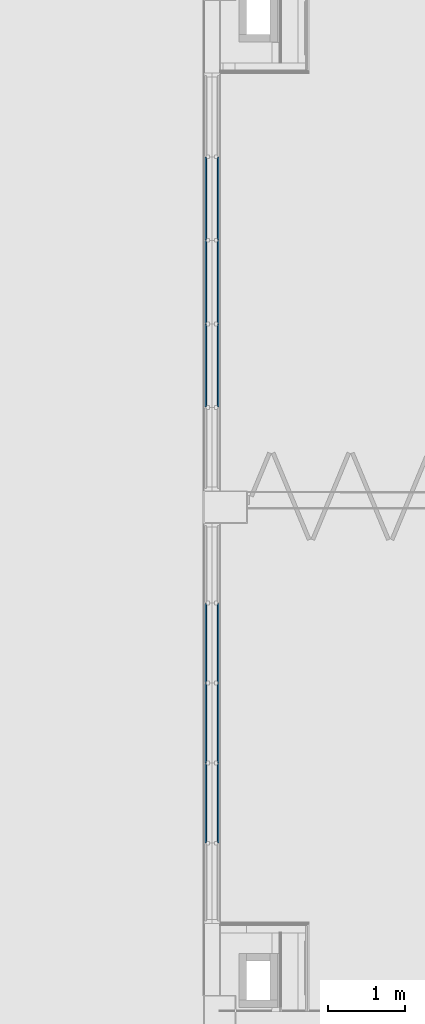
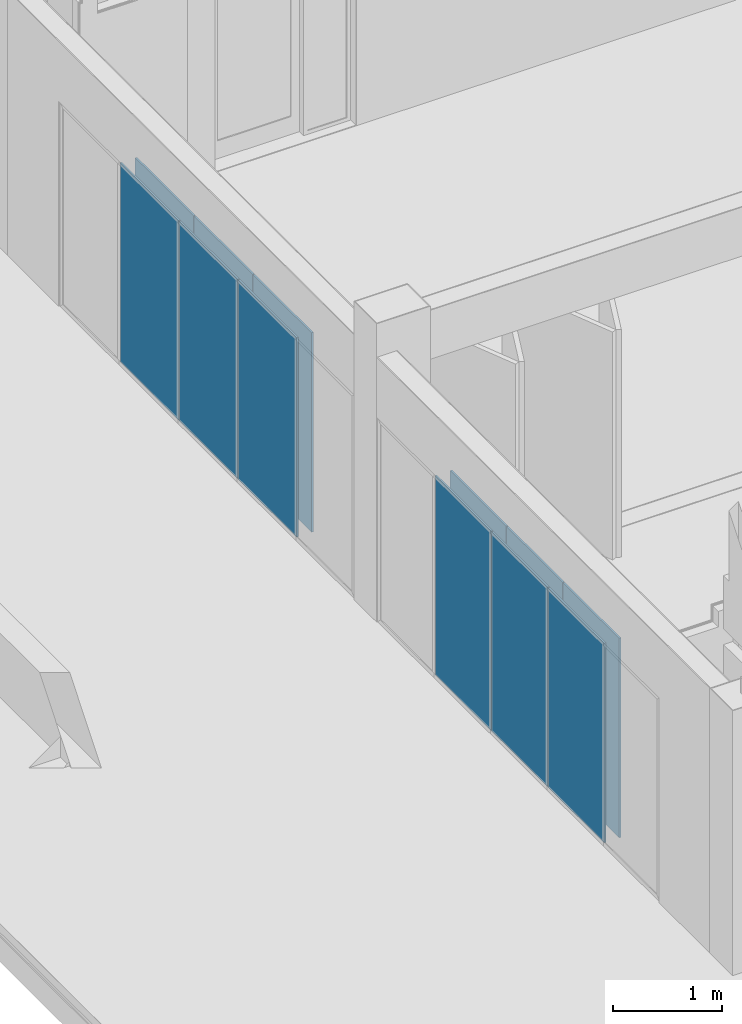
# One storey, part 17 of 139: 12 plates, 4 elements without a shape of their own.
"""IFC2X3 building model written with IfcOpenShell, lengths in millimetres."""

from ifc_helpers import new_model, entity, si_unit, converted_unit, derived_unit, money_unit, direction, frame, origin_with_axes, place, context, subcontext, project, spatial, faceted_brep, source, transform, mapped, material, type_object, element, aggregate, save


model = new_model("IFC2X3")

# Units and contexts
model_context = context("Model", 3, precision=0.01, world=origin_with_axes(), true_north=direction((0.0, 1.0)))
body_context = subcontext(model_context, "Body", "Model", "MODEL_VIEW")
ifc_project = project(units=[si_unit("LENGTHUNIT", "METRE", prefix="MILLI"), si_unit("AREAUNIT", "SQUARE_METRE"), si_unit("VOLUMEUNIT", "CUBIC_METRE"), converted_unit("PLANEANGLEUNIT", "DEGREE", entity("IfcPlaneAngleMeasure", 0.0174532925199), si_unit("PLANEANGLEUNIT", "RADIAN"), dimensions=[0, 0, 0, 0, 0, 0, 0]), money_unit("EUR"), converted_unit("TIMEUNIT", "Year", entity("IfcTimeMeasure", 31556926.0), si_unit("TIMEUNIT", "SECOND"), dimensions=[0, 0, 1, 0, 0, 0, 0]), si_unit("MASSUNIT", "GRAM", prefix="KILO"), si_unit("THERMODYNAMICTEMPERATUREUNIT", "DEGREE_CELSIUS"), si_unit("LUMINOUSINTENSITYUNIT", "LUMEN"), si_unit("ENERGYUNIT", "JOULE", prefix="MEGA"), derived_unit("THERMALCONDUCTANCEUNIT", [(si_unit("POWERUNIT", "WATT"), 1), (si_unit("LENGTHUNIT", "METRE"), -1), (si_unit("THERMODYNAMICTEMPERATUREUNIT", "KELVIN"), -1)]), derived_unit("SPECIFICHEATCAPACITYUNIT", [(si_unit("ENERGYUNIT", "JOULE"), 1), (si_unit("MASSUNIT", "GRAM", prefix="KILO"), -1), (si_unit("THERMODYNAMICTEMPERATUREUNIT", "KELVIN"), -1)]), derived_unit("MASSDENSITYUNIT", [(si_unit("MASSUNIT", "GRAM", prefix="KILO"), 1), (si_unit("VOLUMEUNIT", "CUBIC_METRE"), -1)])], contexts=[model_context])

# Site, building, storey
site_placement = place(None, origin_with_axes())
site = spatial("IfcSite", under=ifc_project, at=site_placement, Name="Kolde pst 67a", CompositionType="ELEMENT")
building_placement = place(site_placement, origin_with_axes())
building = spatial("IfcBuilding", under=site, at=building_placement, Name="Riigigümnaasium", CompositionType="ELEMENT")
storey_placement = place(building_placement, frame((0.0, 0.0, 4600.0), z_axis=(0.0, 0.0, 1.0), x_axis=(1.0, 0.0, 0.0)))
storey = spatial("IfcBuildingStorey", under=building, at=storey_placement, Name="2. korrus", CompositionType="ELEMENT", Elevation=4600.0)

# Curtain wall, plates
curtain_wall_type = type_object("IfcCurtainWallType", Name="Curtain Wall Type", PredefinedType="NOTDEFINED")
curtain_wall_1_placement = place(storey_placement, frame((58149.9590802, 13604.9614037, -2.92339397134e-05), z_axis=(0.0, 0.0, 1.0), x_axis=(1.0, 0.0, 0.0)))
curtain_wall_1 = element("IfcCurtainWall", 1, at=curtain_wall_1_placement, inside=storey, type_object=curtain_wall_type, Name="KLAASSEIN")
ifc_material = material(Name="_GENEERILINE MATERJAL KLAAS")
plate_type_1 = type_object("IfcPlateType", Name="Distinct Panel 1030 x 2240 x 20", PredefinedType="NOTDEFINED")
shared_shape_1 = source(origin_with_axes(), body_context, "Body", "Brep", [
    faceted_brep([(-1034.99998596, 2270.00005033, -10.0), (-1034.99998596, 2270.00005033, 10.0), (-5.00001052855, 2270.00005033, 10.0), (-5.00001052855, 2270.00005033, -10.0), (-1034.99998596, 29.9999946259, -10.0), (-1034.99998596, 29.9999946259, 10.0), (-5.00001052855, 29.9999946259, 10.0), (-5.00001052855, 29.9999946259, -10.0)], [[[0, 1, 2, 3]], [[4, 5, 1, 0]], [[1, 5, 6, 2]], [[3, 2, 6, 7]], [[0, 3, 7, 4]], [[7, 6, 5, 4]]]),
])
plate_1_placement = place(curtain_wall_1_placement, frame((0.0, 0.0, 1150.00002248), z_axis=(0.0, 0.0, 1.0), x_axis=(2.82152227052e-06, -0.999999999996, 0.0)))
plate_1 = element("IfcPlate", 2, at=plate_1_placement, type_object=plate_type_1, material=ifc_material, Name="Siseuks", context=body_context, shape_type="MappedRepresentation", body=[
    mapped(shared_shape_1, transform((520.0, 0.0, -1150.00002248), x_axis=(1.0, 0.0, 0.0), y_axis=(0.0, 0.0, 1.0), z_axis=(0.0, -1.0, 0.0))),
])
plate_2_placement = place(curtain_wall_1_placement, frame((-0.00293438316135, 1040.0, 1150.00002248), z_axis=(0.0, 0.0, 1.0), x_axis=(2.82152227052e-06, -0.999999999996, 0.0)))
plate_2 = element("IfcPlate", 3, at=plate_2_placement, type_object=plate_type_1, material=ifc_material, Name="RF PANEEL ERI-018", context=body_context, shape_type="MappedRepresentation", body=[
    mapped(shared_shape_1, transform((520.0, 0.0, -1150.00002248), x_axis=(1.0, 0.0, 0.0), y_axis=(0.0, 0.0, 1.0), z_axis=(0.0, -1.0, 0.0))),
])
plate_3_placement = place(curtain_wall_1_placement, frame((-0.00586876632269, 2079.99999999, 1150.00002248), z_axis=(0.0, 0.0, 1.0), x_axis=(2.82152227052e-06, -0.999999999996, 0.0)))
plate_3 = element("IfcPlate", 4, at=plate_3_placement, type_object=plate_type_1, material=ifc_material, Name="RF PANEEL ERI-019", context=body_context, shape_type="MappedRepresentation", body=[
    mapped(shared_shape_1, transform((520.0, 0.0, -1150.00002248), x_axis=(1.0, 0.0, 0.0), y_axis=(0.0, 0.0, 1.0), z_axis=(0.0, -1.0, 0.0))),
])
aggregate(curtain_wall_1, [plate_1, plate_2, plate_3])

curtain_wall_2_placement = place(storey_placement, frame((58149.948335, 21457.4999721, -5.87247752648e-05), z_axis=(0.0, 0.0, 1.0), x_axis=(1.0, 0.0, 0.0)))
curtain_wall_2 = element("IfcCurtainWall", 5, at=curtain_wall_2_placement, inside=storey, type_object=curtain_wall_type, Name="KLAASSEIN")
plate_type_2 = type_object("IfcPlateType", Name="Distinct Panel 1075 x 2240 x 20", PredefinedType="NOTDEFINED")
shared_shape_2 = source(origin_with_axes(), body_context, "Body", "Brep", [
    faceted_brep([(1079.99999137, 2270.00015068, -10.0), (5.00001074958, 2270.00015068, -10.0), (5.00001074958, 2270.00015068, 10.0), (1079.99999137, 2270.00015068, 10.0), (1079.99999137, 29.9999959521, -10.0), (5.00001074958, 29.9999959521, -10.0), (5.00001074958, 29.9999959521, 10.0), (1079.99999137, 29.9999959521, 10.0)], [[[0, 1, 2, 3]], [[0, 4, 5, 1]], [[1, 5, 6, 2]], [[3, 2, 6, 7]], [[4, 0, 3, 7]], [[5, 4, 7, 6]]]),
])
plate_4_placement = place(curtain_wall_2_placement, frame((0.0, 0.0, 1150.00007331), z_axis=(0.0, 0.0, 1.0), x_axis=(-3.11830029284e-09, 1.0, 0.0)))
plate_4 = element("IfcPlate", 6, at=plate_4_placement, type_object=plate_type_2, material=ifc_material, Name="Siseuks", context=body_context, shape_type="MappedRepresentation", body=[
    mapped(shared_shape_2, transform((542.5, 0.0, -1150.00007331), x_axis=(-1.0, 0.0, 0.0), y_axis=(0.0, 0.0, 1.0), z_axis=(0.0, 1.0, 0.0))),
])
plate_5_placement = place(curtain_wall_2_placement, frame((3.38335581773e-06, -1085.0, 1150.00007331), z_axis=(0.0, 0.0, 1.0), x_axis=(-3.11830684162e-09, 1.0, 0.0)))
plate_5 = element("IfcPlate", 7, at=plate_5_placement, type_object=plate_type_2, material=ifc_material, Name="RF PANEEL ERI-018", context=body_context, shape_type="MappedRepresentation", body=[
    mapped(shared_shape_2, transform((542.5, 0.0, -1150.00007331), x_axis=(-1.0, 0.0, 0.0), y_axis=(0.0, 0.0, 1.0), z_axis=(0.0, 1.0, 0.0))),
])
plate_6_placement = place(curtain_wall_2_placement, frame((6.76671874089e-06, -2170.0, 1150.00007331), z_axis=(0.0, 0.0, 1.0), x_axis=(-3.11830029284e-09, 1.0, 0.0)))
plate_6 = element("IfcPlate", 8, at=plate_6_placement, type_object=plate_type_2, material=ifc_material, Name="RF PANEEL ERI-019", context=body_context, shape_type="MappedRepresentation", body=[
    mapped(shared_shape_2, transform((542.5, 0.0, -1150.00007331), x_axis=(-1.0, 0.0, 0.0), y_axis=(0.0, 0.0, 1.0), z_axis=(0.0, 1.0, 0.0))),
])
aggregate(curtain_wall_2, [plate_4, plate_5, plate_6])

curtain_wall_3_placement = place(storey_placement, frame((58309.948762, 21457.499953, -9.60191526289e-05), z_axis=(0.0, 0.0, 1.0), x_axis=(1.0, 0.0, 0.0)))
curtain_wall_3 = element("IfcCurtainWall", 9, at=curtain_wall_3_placement, inside=storey, type_object=curtain_wall_type, Name="KLAASSEIN")
shared_shape_3 = source(origin_with_axes(), body_context, "Body", "Brep", [
    faceted_brep([(-1079.99999137, 2270.00015068, -10.0), (-1079.99999137, 2270.00015068, 10.0), (-5.00001074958, 2270.00015068, 10.0), (-5.00001074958, 2270.00015068, -10.0), (-1079.99999137, 29.9999959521, -10.0), (-1079.99999137, 29.9999959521, 10.0), (-5.00001074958, 29.9999959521, 10.0), (-5.00001074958, 29.9999959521, -10.0)], [[[0, 1, 2, 3]], [[4, 5, 1, 0]], [[1, 5, 6, 2]], [[3, 2, 6, 7]], [[0, 3, 7, 4]], [[7, 6, 5, 4]]]),
])
plate_7_placement = place(curtain_wall_3_placement, frame((0.0, 0.0, 1150.00007331), z_axis=(0.0, 0.0, 1.0), x_axis=(1.0933889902e-07, 1.0, 0.0)))
plate_7 = element("IfcPlate", 10, at=plate_7_placement, type_object=plate_type_2, material=ifc_material, Name="Siseuks", context=body_context, shape_type="MappedRepresentation", body=[
    mapped(shared_shape_3, transform((542.5, 0.0, -1150.00007331), x_axis=(1.0, 0.0, 0.0), y_axis=(0.0, 0.0, 1.0), z_axis=(0.0, -1.0, 0.0))),
])
plate_8_placement = place(curtain_wall_3_placement, frame((-0.000118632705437, -1085.0, 1150.00007331), z_axis=(0.0, 0.0, 1.0), x_axis=(1.09338905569e-07, 1.0, 0.0)))
plate_8 = element("IfcPlate", 11, at=plate_8_placement, type_object=plate_type_2, material=ifc_material, Name="RF PANEEL ERI-018", context=body_context, shape_type="MappedRepresentation", body=[
    mapped(shared_shape_3, transform((542.5, 0.0, -1150.00007331), x_axis=(1.0, 0.0, 0.0), y_axis=(0.0, 0.0, 1.0), z_axis=(0.0, -1.0, 0.0))),
])
plate_9_placement = place(curtain_wall_3_placement, frame((-0.000237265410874, -2170.0, 1150.00007331), z_axis=(0.0, 0.0, 1.0), x_axis=(1.0933889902e-07, 1.0, 0.0)))
plate_9 = element("IfcPlate", 12, at=plate_9_placement, type_object=plate_type_2, material=ifc_material, Name="RF PANEEL ERI-019", context=body_context, shape_type="MappedRepresentation", body=[
    mapped(shared_shape_3, transform((542.5, 0.0, -1150.00007331), x_axis=(1.0, 0.0, 0.0), y_axis=(0.0, 0.0, 1.0), z_axis=(0.0, -1.0, 0.0))),
])
aggregate(curtain_wall_3, [plate_7, plate_8, plate_9])

curtain_wall_4_placement = place(storey_placement, frame((58309.9589479, 13604.961802, -0.000125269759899), z_axis=(0.0, 0.0, 1.0), x_axis=(1.0, 0.0, 0.0)))
curtain_wall_4 = element("IfcCurtainWall", 13, at=curtain_wall_4_placement, inside=storey, type_object=curtain_wall_type, Name="KLAASSEIN")
shared_shape_4 = source(origin_with_axes(), body_context, "Body", "Brep", [
    faceted_brep([(1034.99998596, 2270.00005033, -10.0), (5.00001052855, 2270.00005033, -10.0), (5.00001052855, 2270.00005033, 10.0), (1034.99998596, 2270.00005033, 10.0), (1034.99998596, 29.9999946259, -10.0), (5.00001052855, 29.9999946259, -10.0), (5.00001052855, 29.9999946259, 10.0), (1034.99998596, 29.9999946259, 10.0)], [[[0, 1, 2, 3]], [[0, 4, 5, 1]], [[1, 5, 6, 2]], [[3, 2, 6, 7]], [[4, 0, 3, 7]], [[5, 4, 7, 6]]]),
])
plate_10_placement = place(curtain_wall_4_placement, frame((0.0, 0.0, 1150.00006759), z_axis=(0.0, 0.0, 1.0), x_axis=(2.90631573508e-06, -0.999999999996, 0.0)))
plate_10 = element("IfcPlate", 14, at=plate_10_placement, type_object=plate_type_1, material=ifc_material, Name="Siseuks", context=body_context, shape_type="MappedRepresentation", body=[
    mapped(shared_shape_4, transform((520.0, 0.0, -1150.00006759), x_axis=(-1.0, 0.0, 0.0), y_axis=(0.0, 0.0, 1.0), z_axis=(0.0, 1.0, 0.0))),
])
plate_11_placement = place(curtain_wall_4_placement, frame((-0.00302256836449, 1040.0, 1150.00006759), z_axis=(0.0, 0.0, 1.0), x_axis=(2.90631572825e-06, -0.999999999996, 0.0)))
plate_11 = element("IfcPlate", 15, at=plate_11_placement, type_object=plate_type_1, material=ifc_material, Name="RF PANEEL ERI-018", context=body_context, shape_type="MappedRepresentation", body=[
    mapped(shared_shape_4, transform((520.0, 0.0, -1150.00006759), x_axis=(-1.0, 0.0, 0.0), y_axis=(0.0, 0.0, 1.0), z_axis=(0.0, 1.0, 0.0))),
])
plate_12_placement = place(curtain_wall_4_placement, frame((-0.00604513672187, 2079.99999999, 1150.00006759), z_axis=(0.0, 0.0, 1.0), x_axis=(2.90631573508e-06, -0.999999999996, 0.0)))
plate_12 = element("IfcPlate", 16, at=plate_12_placement, type_object=plate_type_1, material=ifc_material, Name="RF PANEEL ERI-019", context=body_context, shape_type="MappedRepresentation", body=[
    mapped(shared_shape_4, transform((520.0, 0.0, -1150.00006759), x_axis=(-1.0, 0.0, 0.0), y_axis=(0.0, 0.0, 1.0), z_axis=(0.0, 1.0, 0.0))),
])
aggregate(curtain_wall_4, [plate_10, plate_11, plate_12])

save(model, "model.ifc")
